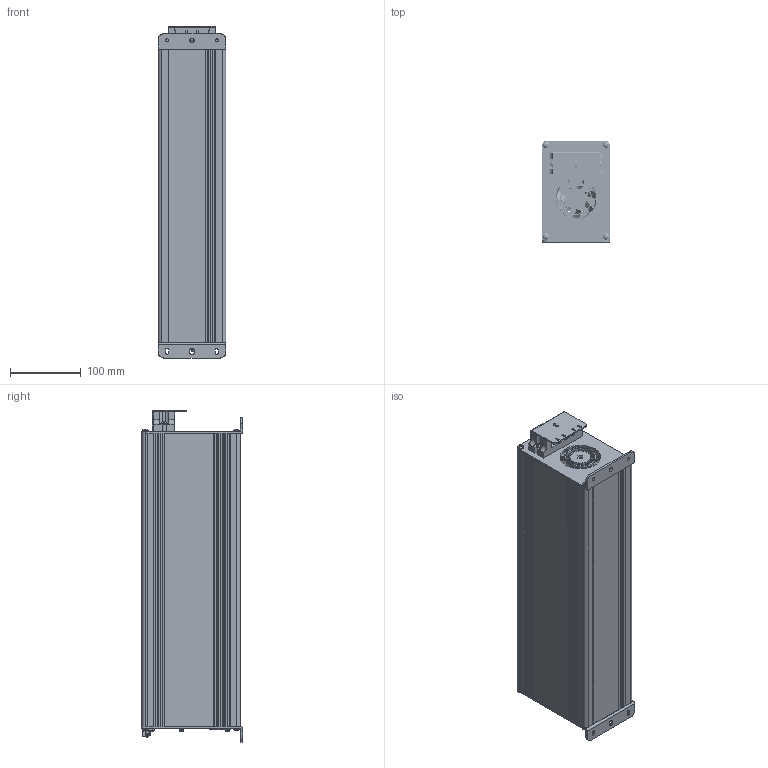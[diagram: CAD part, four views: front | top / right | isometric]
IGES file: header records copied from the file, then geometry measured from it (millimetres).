
Global section: file name: ED DV415COM_단순화2조명_1; native system: Autodesk Inventor 2026; preprocessor: unknown; author: Administrator; date: 20260713.092725; units: millimetre
Bounding box: 95.5 x 142.98 x 469.92 mm (x, y, z)
Volume: 767251.8 mm3; surface area: 555185.2 mm2
Topology: 9 solids, 9 shells, 5186 faces, 14003 edges, 9221 vertices
Faces by surface type: bspline 5186
